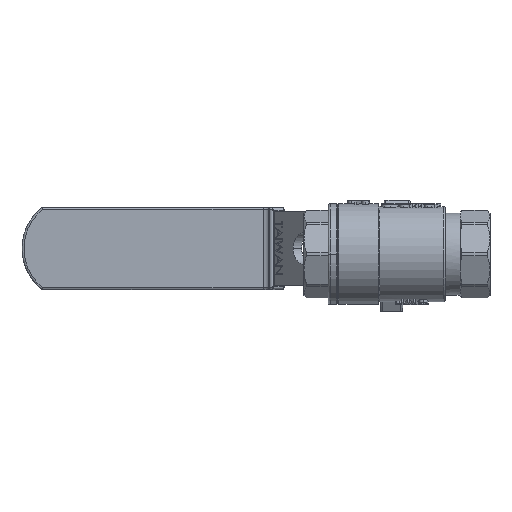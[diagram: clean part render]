
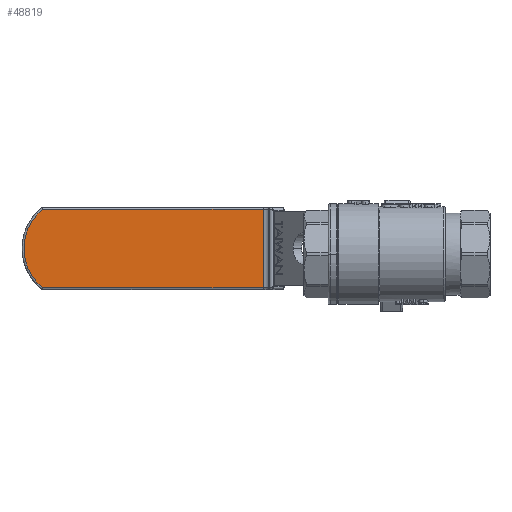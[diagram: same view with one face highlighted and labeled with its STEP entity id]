
A CAD part, front view. The second image highlights one B-rep face of the part: STEP entity #48819.
In plain terms, the highlighted planar face has unit normal (0, -1, 0).
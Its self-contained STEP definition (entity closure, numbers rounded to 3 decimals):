
#1554 = EDGE_CURVE ( 'NONE', #71906, #34228, #30178, .T. ) ;
#4466 = ORIENTED_EDGE ( 'NONE', *, *, #82362, .T. ) ;
#7372 = CARTESIAN_POINT ( 'NONE',  ( -4.515, -4., 10.5 ) ) ;
#7691 = DIRECTION ( 'NONE',  ( 0., -1., 0. ) ) ;
#9133 = CARTESIAN_POINT ( 'NONE',  ( -63.662, -4., 10.5 ) ) ;
#16717 = LINE ( 'NONE', #22229, #72668 ) ;
#20664 = DIRECTION ( 'NONE',  ( 0., 1., 0. ) ) ;
#22229 = CARTESIAN_POINT ( 'NONE',  ( -63.662, -4., 10.5 ) ) ;
#29459 = FACE_OUTER_BOUND ( 'NONE', #40693, .T. ) ;
#30178 = LINE ( 'NONE', #53338, #78215 ) ;
#34228 = VERTEX_POINT ( 'NONE', #36985 ) ;
#34698 = EDGE_CURVE ( 'NONE', #82407, #71906, #16717, .T. ) ;
#36985 = CARTESIAN_POINT ( 'NONE',  ( -63.662, -4., -10.5 ) ) ;
#38795 = CARTESIAN_POINT ( 'NONE',  ( -63.662, -4., -10.5 ) ) ;
#40693 = EDGE_LOOP ( 'NONE', ( #56369, #63531, #4466, #66916 ) ) ;
#41369 = VECTOR ( 'NONE', #74105, 1000. ) ;
#41879 = DIRECTION ( 'NONE',  ( 0., 0., 1. ) ) ;
#47314 = VERTEX_POINT ( 'NONE', #90390 ) ;
#48819 = ADVANCED_FACE ( 'NONE', ( #29459 ), #55672, .F. ) ;
#49873 = CARTESIAN_POINT ( 'NONE',  ( -13., -4., 0. ) ) ;
#53338 = CARTESIAN_POINT ( 'NONE',  ( -63.662, -4., 10. ) ) ;
#55672 = PLANE ( 'NONE',  #56464 ) ;
#56369 = ORIENTED_EDGE ( 'NONE', *, *, #1554, .T. ) ;
#56464 = AXIS2_PLACEMENT_3D ( 'NONE', #70316, #20664, #41879 ) ;
#57051 = DIRECTION ( 'NONE',  ( 0., 0., 1. ) ) ;
#58166 = LINE ( 'NONE', #38795, #41369 ) ;
#61135 = DIRECTION ( 'NONE',  ( 0., 0., -1. ) ) ;
#63531 = ORIENTED_EDGE ( 'NONE', *, *, #74915, .T. ) ;
#64999 = CIRCLE ( 'NONE', #86433, 13.5 ) ;
#65624 = DIRECTION ( 'NONE',  ( -1., 0., 0. ) ) ;
#66916 = ORIENTED_EDGE ( 'NONE', *, *, #34698, .T. ) ;
#70316 = CARTESIAN_POINT ( 'NONE',  ( -63.662, -4., 10. ) ) ;
#71906 = VERTEX_POINT ( 'NONE', #9133 ) ;
#72668 = VECTOR ( 'NONE', #65624, 1000. ) ;
#74105 = DIRECTION ( 'NONE',  ( 1., 0., 0. ) ) ;
#74915 = EDGE_CURVE ( 'NONE', #34228, #47314, #58166, .T. ) ;
#78215 = VECTOR ( 'NONE', #61135, 1000. ) ;
#82362 = EDGE_CURVE ( 'NONE', #47314, #82407, #64999, .T. ) ;
#82407 = VERTEX_POINT ( 'NONE', #7372 ) ;
#86433 = AXIS2_PLACEMENT_3D ( 'NONE', #49873, #7691, #57051 ) ;
#90390 = CARTESIAN_POINT ( 'NONE',  ( -4.515, -4., -10.5 ) ) ;
